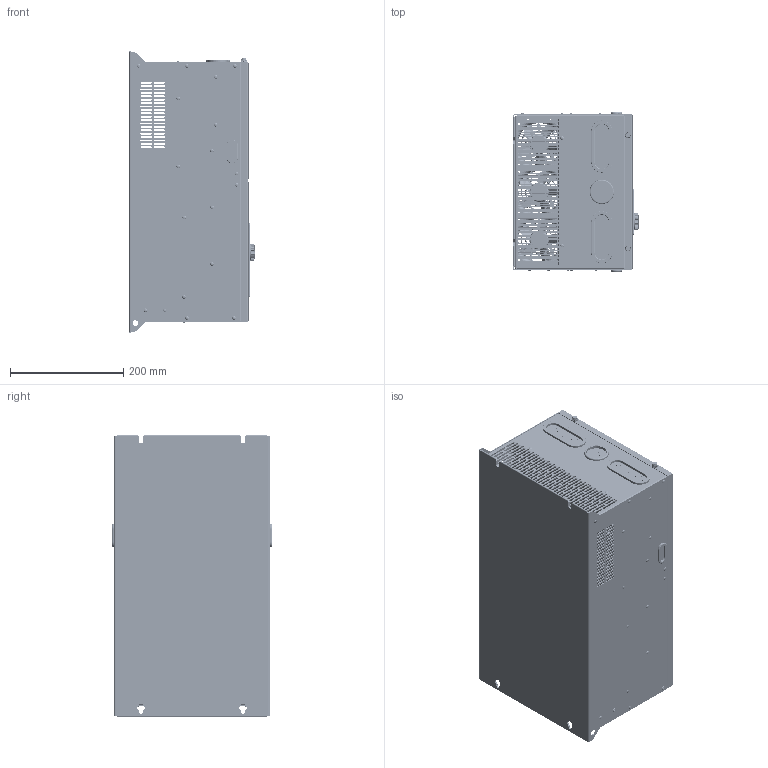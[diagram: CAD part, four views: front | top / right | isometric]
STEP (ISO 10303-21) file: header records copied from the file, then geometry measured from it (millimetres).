
FILE_DESCRIPTION((''),'2;1');
FILE_NAME('E160-45G_ASM','2022-12-09T',('500081'),(''),'CREO PARAMETRIC BY PTC INC, 2014350','CREO PARAMETRIC BY PTC INC, 2014350','');
FILE_SCHEMA(('CONFIG_CONTROL_DESIGN'));
Products named in the file (76): E160-45GT4C1-MS01; E160-45GT4C1-MS02; E160-45GT4C1-MS03; E160-45GT4C1-MS04; E160-45GT4C1-MS05; E160-45GT4C1-MS06; E160-45GT4C1-MS07; E160-45GT4C1-MS08; PANTOU-LD-M3X7; E160-45GT4C1-MA02_ASM; E160-45GT4C1-MS09; SIYIN-01; E160-45GT4C1-MS11; SIYIN-02; E160-45GT4C1-MS13; E160-45GT4C1-MS14; E160-45GT4C1-MS15; E160-45GT4C1-MS16; CHENGTOU-LS-M3X6-5; E160-45GT4C1-MA01_ASM; E160-45GT4C1-MC11; E160-45GT4C1-MC12; E160-45GT4C1-MC13; E160-45GT4C1-MC14; E160-45GT4C1-MC15; E160-45GT4C1-MC16; E160-45GT4C1-MC17; E160-45GT4C1-MA05_ASM; E160-45GT4C1-MH01; E160-45GT4C1-MI01; E160-45GT4C1-MI02; E160-45GT4C1-MI03; E160-45GT4C1-MA00_ASM; E300_KZB; JP_KZ_MUTOU; E300-VFPG4; E300_KZB_ASM; JP_JIANPANKE; JP_BOLIBAN; JP_Z_ASM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
Assembly tree (172 placements, depth 5):
  E160-45G_ASM
    E160-45GT4C1-MA00_ASM
      E160-45GT4C1-MA01_ASM
        E160-45GT4C1-MA02_ASM
          E160-45GT4C1-MS01
          E160-45GT4C1-MS02
          E160-45GT4C1-MS03
          E160-45GT4C1-MS04
          E160-45GT4C1-MS05
          E160-45GT4C1-MS06
          E160-45GT4C1-MS07  x2
          E160-45GT4C1-MS08  x2
          PANTOU-LD-M3X7  x40
        E160-45GT4C1-MS09
        SIYIN-01
        E160-45GT4C1-MS11
        SIYIN-02
        E160-45GT4C1-MS13
        E160-45GT4C1-MS14
        E160-45GT4C1-MS15
        E160-45GT4C1-MS16
        CHENGTOU-LS-M3X6-5  x2
      E160-45GT4C1-MA05_ASM
        E160-45GT4C1-MC11  x3
        E160-45GT4C1-MC12
        E160-45GT4C1-MC13
        E160-45GT4C1-MC14
        E160-45GT4C1-MC15
        E160-45GT4C1-MC16
        E160-45GT4C1-MC17
      E160-45GT4C1-MH01
      E160-45GT4C1-MI01
      E160-45GT4C1-MI02
      E160-45GT4C1-MI03
    E300_KZB_ASM
      E300_KZB
      JP_KZ_MUTOU
      E300-VFPG4
    E300-JP-ZJ_ASM
      JP_Z_ASM
        JP_JIANPANKE
        JP_BOLIBAN
      JP_PCB_ASM
        JP_PCB
        5PP_ASM
          2P-SHUMAGUAN
          3P-SHUMAGUAN
        JP_QINGCHUKAIGUAN  x9
        JP_GONGTOU
        JP_LED  x7
      JP_JIANPANGAI_ASM
        JP_JIANPANGAI
      JP_CANG_ASM
        JP_CANG
        10P_MU
      MO-BIOAZHUN
      JP_MIANMO_ASM
        JP_MIANMO
        JP_XUANNIU
      JP_BIANMAQI
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Bounding box: 221.9 x 281.7 x 498 mm (x, y, z)
Volume: 3250372.1 mm3; surface area: 4025422.6 mm2
Topology: 238 solids, 243 shells, 16177 faces, 41841 edges, 26702 vertices
Faces by surface type: plane 11033, cylinder 3483, torus 557, cone 414, extrusion 248, revolution 162, bspline 146, sphere 134
Entity records: 485094 total; most frequent: CARTESIAN_POINT 80787, ORIENTED_EDGE 60226, DIRECTION 58585, PRESENTATION_STYLE_ASSIGNMENT 30960, EDGE_CURVE 30117, STYLED_ITEM 28860, CURVE_STYLE 28403, VECTOR 22651
